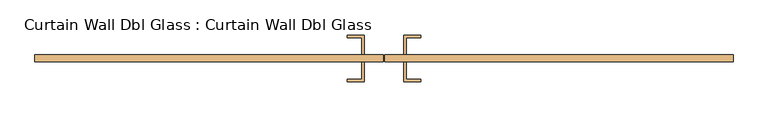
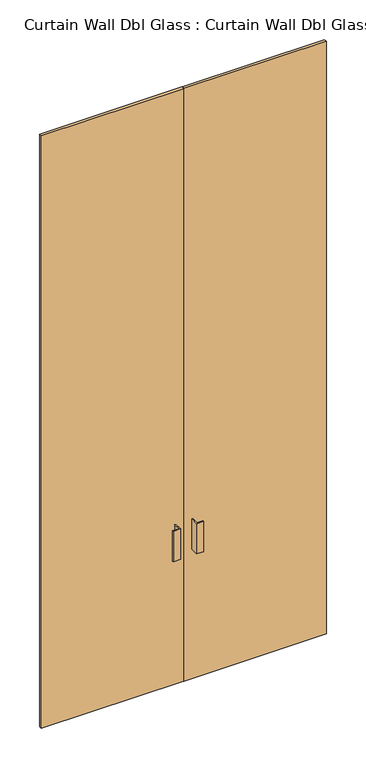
"""IFC4 building model written with IfcOpenShell, lengths in millimetres: door geometry, Curtain Wall Dbl Glass : Curtain Wall Dbl Glass."""

from ifc_helpers import new_model, si_unit, frame, origin, origin_with_axes, place, context, project, spatial, polyline, outline, extrude, source, transform, mapped, element, save


def curtain_wall_dbl_glass_curtain_wall_dbl_glass_9090d2d5(model_context):
    return source(origin(), model_context, "Body", "SweptSolid", [
        extrude(outline(polyline([(-1.5875, -31.75), (-1.5875, -50.8), (-902.3, -50.8), (-902.3, -31.75), (-1.5875, -31.75)])), origin_with_axes(), (0.0, 0.0, 1.0), 3961.9),
        extrude(outline(polyline([(902.3, -31.75), (902.3, -50.8), (1.5875, -50.8), (1.5875, -31.75), (902.3, -31.75)])), origin_with_axes(), (0.0, 0.0, 1.0), 3961.9),
        extrude(outline(polyline([(-50.8, -101.6), (-95.25, -101.6), (-95.25, -95.25), (-57.15, -95.25), (-57.15, -50.8), (-50.8, -50.8), (-50.8, -101.6)])), frame((0.0, 0.0, 863.6), z_axis=(0.0, 0.0, 1.0), x_axis=(1.0, 0.0, 0.0)), (0.0, 0.0, 1.0), 203.2),
        extrude(outline(polyline([(50.8, -101.6), (50.8, -50.8), (57.15, -50.8), (57.15, -95.25), (95.25, -95.25), (95.25, -101.6), (50.8, -101.6)])), frame((0.0, 0.0, 863.6), z_axis=(0.0, 0.0, 1.0), x_axis=(1.0, 0.0, 0.0)), (0.0, 0.0, 1.0), 203.2),
        extrude(outline(polyline([(-50.8, 19.05), (-50.8, -31.75), (-57.15, -31.75), (-57.15, 12.7), (-95.25, 12.7), (-95.25, 19.05), (-50.8, 19.05)])), frame((0.0, 0.0, 863.6), z_axis=(0.0, 0.0, 1.0), x_axis=(1.0, 0.0, 0.0)), (0.0, 0.0, 1.0), 203.2),
        extrude(outline(polyline([(50.8, 19.05), (95.25, 19.05), (95.25, 12.7), (57.15, 12.7), (57.15, -31.75), (50.8, -31.75), (50.8, 19.05)])), frame((0.0, 0.0, 863.6), z_axis=(0.0, 0.0, 1.0), x_axis=(1.0, 0.0, 0.0)), (0.0, 0.0, 1.0), 203.2),
    ])


if __name__ == "__main__":
    model = new_model("IFC4")
    model_context = context("Model", 3, world=origin())
    ifc_project = project(units=[si_unit("LENGTHUNIT", "METRE", prefix="MILLI")], contexts=[model_context])
    site = spatial("IfcSite", under=ifc_project)
    building = spatial("IfcBuilding", under=site)
    placement = place(None, origin())
    curtain_wall_dbl_glass_curtain_wall_dbl_glass_shape = curtain_wall_dbl_glass_curtain_wall_dbl_glass_9090d2d5(model_context)
    element("IfcDoor", 1, ObjectType="Curtain Wall Dbl Glass : Curtain Wall Dbl Glass", at=placement, inside=building, context=model_context, shape_type="MappedRepresentation", body=[
        mapped(curtain_wall_dbl_glass_curtain_wall_dbl_glass_shape, transform((0.0, 0.0, 0.0), x_axis=(1.0, 0.0, 0.0), y_axis=(0.0, 1.0, 0.0), z_axis=(0.0, 0.0, 1.0))),
    ])
    save(model, "model.ifc")
